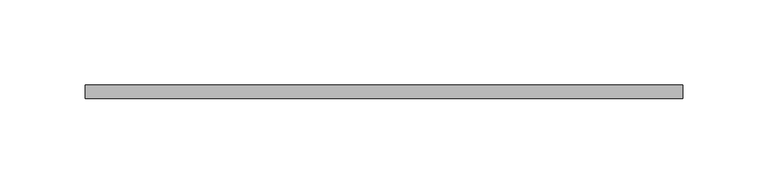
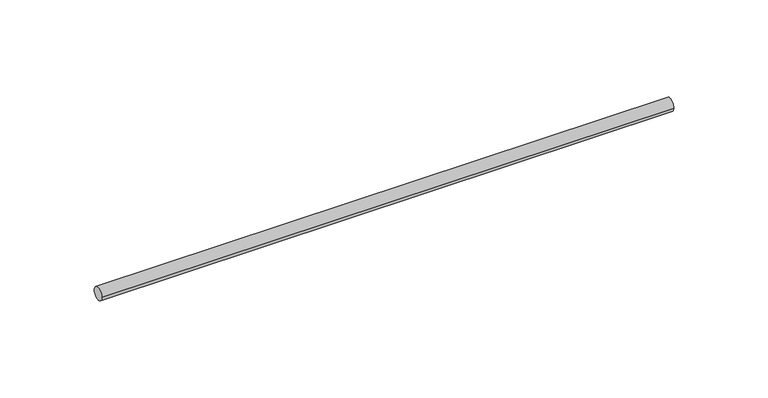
"""IFC4 building model written with IfcOpenShell, lengths in millimetres: valve geometry, Superfix Threaded Rod (used for clamps) : Threaded Rod  Extra  - 1000 mm (used for clamps)."""

from ifc_helpers import new_model, si_unit, point, frame, origin, origin_2d, place, context, project, spatial, circle_curve, trimmed, segment, composite_curve, outline, extrude, source, transform, mapped, element, save


def valve_54fbe6a6(model_context):
    return source(origin(), model_context, "Body", "SweptSolid", [
        extrude(outline(composite_curve([segment(trimmed(circle_curve(origin_2d(), 4.0), [point((-4.0, 0.0))], [point((4.0, 0.0))], False, "CARTESIAN"), True, "CONTINUOUS"), segment(trimmed(circle_curve(origin_2d(), 4.0), [point((4.0, 0.0))], [point((-4.0, 0.0))], False, "CARTESIAN"), True, "CONTINUOUS")], self_intersect=False)), frame((-10.0, 0.0, 0.0), z_axis=(1.0, 0.0, 0.0), x_axis=(0.0, 1.0, 0.0)), (0.0, 0.0, 1.0), 350.0),
    ])


if __name__ == "__main__":
    model = new_model("IFC4")
    model_context = context("Model", 3, world=origin())
    ifc_project = project(units=[si_unit("LENGTHUNIT", "METRE", prefix="MILLI")], contexts=[model_context])
    site = spatial("IfcSite", under=ifc_project)
    building = spatial("IfcBuilding", under=site)
    placement = place(None, origin())
    valve_shape = valve_54fbe6a6(model_context)
    element("IfcValve", 1, ObjectType="Superfix Threaded Rod (used for clamps) : Threaded Rod  Extra  - 1000 mm (used for clamps)", at=placement, inside=building, context=model_context, shape_type="MappedRepresentation", body=[
        mapped(valve_shape, transform((0.0, 0.0, 0.0), x_axis=(1.0, 0.0, 0.0), y_axis=(0.0, 1.0, 0.0), z_axis=(0.0, 0.0, 1.0))),
    ])
    save(model, "model.ifc")
